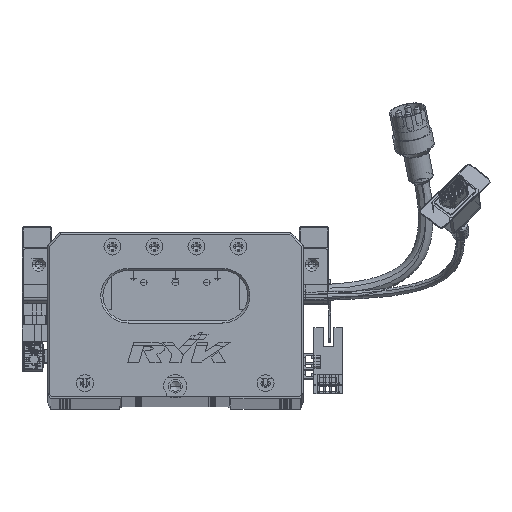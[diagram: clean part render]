
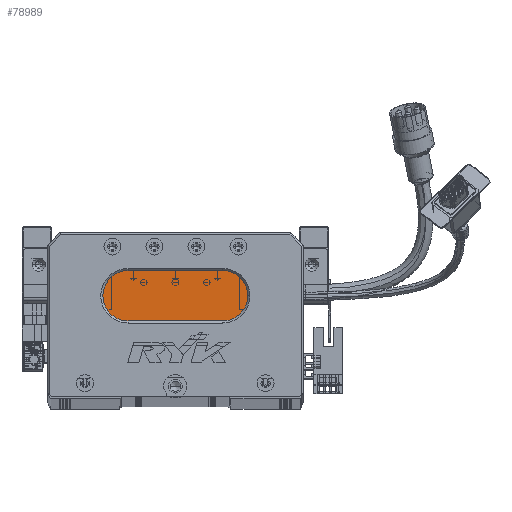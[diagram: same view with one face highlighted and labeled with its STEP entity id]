
A CAD part, top view. The second image highlights one B-rep face of the part: STEP entity #78989.
In plain terms, the highlighted planar face has unit normal (0, 0, 1) as drawn and (0, 0, -1) by its records, which use the part's own axes.
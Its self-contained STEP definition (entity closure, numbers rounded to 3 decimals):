
#921 = CARTESIAN_POINT ( 'NONE',  ( 38.5, 48., 13. ) ) ;
#4215 = EDGE_CURVE ( 'NONE', #94651, #73805, #38365, .T. ) ;
#6149 = CARTESIAN_POINT ( 'NONE',  ( 83.5, 36., 13. ) ) ;
#13190 = VERTEX_POINT ( 'NONE', #106917 ) ;
#18098 = DIRECTION ( 'NONE',  ( -1., 0., 0. ) ) ;
#21317 = AXIS2_PLACEMENT_3D ( 'NONE', #124668, #76742, #18098 ) ;
#24483 = DIRECTION ( 'NONE',  ( -1., 0., 0. ) ) ;
#25176 = EDGE_CURVE ( 'NONE', #102464, #13190, #96473, .T. ) ;
#25324 = PLANE ( 'NONE',  #66304 ) ;
#33384 = EDGE_LOOP ( 'NONE', ( #93282, #61173, #63310, #52598, #82113 ) ) ;
#34898 = EDGE_CURVE ( 'NONE', #92551, #94651, #118147, .T. ) ;
#37582 = CARTESIAN_POINT ( 'NONE',  ( 38.5, 48., 13. ) ) ;
#38365 = CIRCLE ( 'NONE', #21317, 12. ) ;
#38439 = AXIS2_PLACEMENT_3D ( 'NONE', #37582, #106881, #48276 ) ;
#40790 = LINE ( 'NONE', #99044, #56083 ) ;
#47912 = CARTESIAN_POINT ( 'NONE',  ( 38.5, 36., 13. ) ) ;
#48276 = DIRECTION ( 'NONE',  ( -1., 0., 0. ) ) ;
#50172 = DIRECTION ( 'NONE',  ( -1., 0., 0. ) ) ;
#52598 = ORIENTED_EDGE ( 'NONE', *, *, #126316, .T. ) ;
#54185 = DIRECTION ( 'NONE',  ( 1., 0., 0. ) ) ;
#54660 = EDGE_CURVE ( 'NONE', #73805, #102464, #40790, .T. ) ;
#56083 = VECTOR ( 'NONE', #79782, 1000. ) ;
#59173 = DIRECTION ( 'NONE',  ( 0., 0., -1. ) ) ;
#61173 = ORIENTED_EDGE ( 'NONE', *, *, #54660, .T. ) ;
#63310 = ORIENTED_EDGE ( 'NONE', *, *, #25176, .T. ) ;
#66304 = AXIS2_PLACEMENT_3D ( 'NONE', #74093, #83918, #24483 ) ;
#73805 = VERTEX_POINT ( 'NONE', #6149 ) ;
#74093 = CARTESIAN_POINT ( 'NONE',  ( 83.5, 48., 13. ) ) ;
#75220 = CARTESIAN_POINT ( 'NONE',  ( 83.5, 60., 13. ) ) ;
#76742 = DIRECTION ( 'NONE',  ( 0., 0., -1. ) ) ;
#78989 = ADVANCED_FACE ( 'NONE', ( #125885 ), #25324, .T. ) ;
#79782 = DIRECTION ( 'NONE',  ( -1., 0., 0. ) ) ;
#82113 = ORIENTED_EDGE ( 'NONE', *, *, #34898, .T. ) ;
#83918 = DIRECTION ( 'NONE',  ( 0., 0., -1. ) ) ;
#84543 = CARTESIAN_POINT ( 'NONE',  ( 83.5, 60., 13. ) ) ;
#92551 = VERTEX_POINT ( 'NONE', #118118 ) ;
#93282 = ORIENTED_EDGE ( 'NONE', *, *, #4215, .T. ) ;
#94651 = VERTEX_POINT ( 'NONE', #75220 ) ;
#96473 = CIRCLE ( 'NONE', #121537, 12. ) ;
#99044 = CARTESIAN_POINT ( 'NONE',  ( 83.5, 36., 13. ) ) ;
#102464 = VERTEX_POINT ( 'NONE', #47912 ) ;
#106881 = DIRECTION ( 'NONE',  ( 0., 0., -1. ) ) ;
#106917 = CARTESIAN_POINT ( 'NONE',  ( 26.5, 48., 13. ) ) ;
#108985 = VECTOR ( 'NONE', #54185, 1000. ) ;
#110738 = CIRCLE ( 'NONE', #38439, 12. ) ;
#118118 = CARTESIAN_POINT ( 'NONE',  ( 38.5, 60., 13. ) ) ;
#118147 = LINE ( 'NONE', #84543, #108985 ) ;
#121537 = AXIS2_PLACEMENT_3D ( 'NONE', #921, #59173, #50172 ) ;
#124668 = CARTESIAN_POINT ( 'NONE',  ( 83.5, 48., 13. ) ) ;
#125885 = FACE_OUTER_BOUND ( 'NONE', #33384, .T. ) ;
#126316 = EDGE_CURVE ( 'NONE', #13190, #92551, #110738, .T. ) ;
